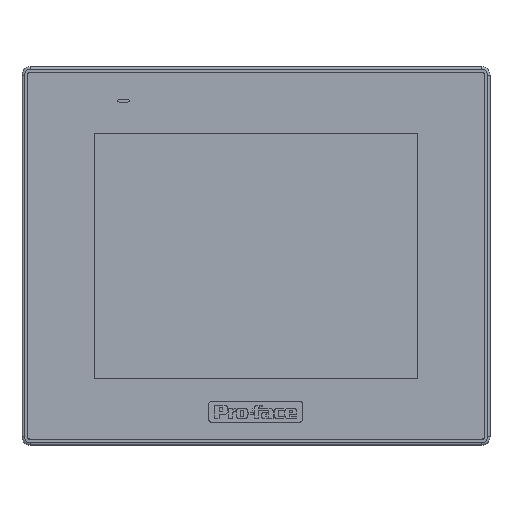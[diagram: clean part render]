
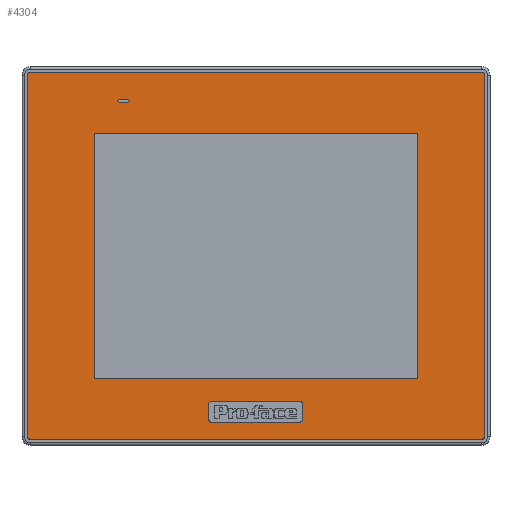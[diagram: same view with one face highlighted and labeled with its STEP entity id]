
A CAD part, top view. The second image highlights one B-rep face of the part: STEP entity #4304.
In plain terms, the highlighted planar face has unit normal (0, 0, 1) as drawn and (0, 0, -1) by its records, which use the part's own axes.
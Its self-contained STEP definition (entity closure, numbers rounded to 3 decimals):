
#1939=CARTESIAN_POINT('',(-81.75,65.5,-4.9));
#1940=DIRECTION('',(0.,0.,1.));
#1941=DIRECTION('',(0.,1.,0.));
#1942=AXIS2_PLACEMENT_3D('',#1939,#1940,#1941);
#1944=CARTESIAN_POINT('',(-81.75,-65.5,-4.9));
#1945=DIRECTION('',(0.,0.,1.));
#1946=DIRECTION('',(-1.,0.,0.));
#1947=AXIS2_PLACEMENT_3D('',#1944,#1945,#1946);
#1949=CARTESIAN_POINT('',(81.75,-65.5,-4.9));
#1950=DIRECTION('',(0.,0.,1.));
#1951=DIRECTION('',(0.,-1.,0.));
#1952=AXIS2_PLACEMENT_3D('',#1949,#1950,#1951);
#1954=CARTESIAN_POINT('',(81.75,65.5,-4.9));
#1955=DIRECTION('',(0.,0.,1.));
#1956=DIRECTION('',(1.,0.,0.));
#1957=AXIS2_PLACEMENT_3D('',#1954,#1955,#1956);
#1959=DIRECTION('',(0.,-1.,0.));
#1960=VECTOR('',#1959,88.6);
#1961=CARTESIAN_POINT('',(58.65,44.3,-4.9));
#1962=LINE('',#1961,#1960);
#1963=DIRECTION('',(-1.,0.,0.));
#1964=VECTOR('',#1963,117.3);
#1965=CARTESIAN_POINT('',(58.65,-44.3,-4.9));
#1966=LINE('',#1965,#1964);
#1967=DIRECTION('',(0.,1.,0.));
#1968=VECTOR('',#1967,88.6);
#1969=CARTESIAN_POINT('',(-58.65,-44.3,-4.9));
#1970=LINE('',#1969,#1968);
#1971=DIRECTION('',(1.,0.,0.));
#1972=VECTOR('',#1971,117.3);
#1973=CARTESIAN_POINT('',(-58.65,44.3,-4.9));
#1974=LINE('',#1973,#1972);
#1975=CARTESIAN_POINT('',(16.15,-53.65,-4.9));
#1976=DIRECTION('',(0.,0.,-1.));
#1977=DIRECTION('',(0.,1.,0.));
#1978=AXIS2_PLACEMENT_3D('',#1975,#1976,#1977);
#1980=DIRECTION('',(0.,-1.,0.));
#1981=VECTOR('',#1980,5.5);
#1982=CARTESIAN_POINT('',(17.15,-53.65,-4.9));
#1983=LINE('',#1982,#1981);
#1984=CARTESIAN_POINT('',(16.15,-59.15,-4.9));
#1985=DIRECTION('',(0.,0.,-1.));
#1986=DIRECTION('',(1.,0.,0.));
#1987=AXIS2_PLACEMENT_3D('',#1984,#1985,#1986);
#1989=DIRECTION('',(-1.,0.,0.));
#1990=VECTOR('',#1989,32.);
#1991=CARTESIAN_POINT('',(16.15,-60.15,-4.9));
#1992=LINE('',#1991,#1990);
#1993=CARTESIAN_POINT('',(-15.85,-59.15,-4.9));
#1994=DIRECTION('',(0.,0.,-1.));
#1995=DIRECTION('',(0.,-1.,0.));
#1996=AXIS2_PLACEMENT_3D('',#1993,#1994,#1995);
#1998=DIRECTION('',(0.,1.,0.));
#1999=VECTOR('',#1998,5.5);
#2000=CARTESIAN_POINT('',(-16.85,-59.15,-4.9));
#2001=LINE('',#2000,#1999);
#2002=CARTESIAN_POINT('',(-15.85,-53.65,-4.9));
#2003=DIRECTION('',(0.,0.,-1.));
#2004=DIRECTION('',(-1.,0.,0.));
#2005=AXIS2_PLACEMENT_3D('',#2002,#2003,#2004);
#2007=DIRECTION('',(1.,0.,0.));
#2008=VECTOR('',#2007,32.);
#2009=CARTESIAN_POINT('',(-15.85,-52.65,-4.9));
#2010=LINE('',#2009,#2008);
#2011=DIRECTION('',(-1.,0.,0.));
#2012=VECTOR('',#2011,3.);
#2013=CARTESIAN_POINT('',(49.5,55.75,-4.9));
#2014=LINE('',#2013,#2012);
#2015=DIRECTION('',(1.,0.,0.));
#2016=VECTOR('',#2015,3.);
#2017=CARTESIAN_POINT('',(46.5,56.85,-4.9));
#2018=LINE('',#2017,#2016);
#2019=DIRECTION('',(1.,0.,0.));
#2020=VECTOR('',#2019,163.5);
#2021=CARTESIAN_POINT('',(-81.75,66.4,-4.9));
#2022=LINE('',#2021,#2020);
#2031=DIRECTION('',(0.,-1.,0.));
#2032=VECTOR('',#2031,131.);
#2033=CARTESIAN_POINT('',(82.65,65.5,-4.9));
#2034=LINE('',#2033,#2032);
#2043=DIRECTION('',(-1.,0.,0.));
#2044=VECTOR('',#2043,163.5);
#2045=CARTESIAN_POINT('',(81.75,-66.4,-4.9));
#2046=LINE('',#2045,#2044);
#2055=DIRECTION('',(0.,1.,0.));
#2056=VECTOR('',#2055,131.);
#2057=CARTESIAN_POINT('',(-82.65,-65.5,-4.9));
#2058=LINE('',#2057,#2056);
#3654=CARTESIAN_POINT('',(49.5,56.3,-4.9));
#3655=DIRECTION('',(0.,0.,1.));
#3656=DIRECTION('',(0.,-1.,0.));
#3657=AXIS2_PLACEMENT_3D('',#3654,#3655,#3656);
#3680=CARTESIAN_POINT('',(46.5,56.3,-4.9));
#3681=DIRECTION('',(0.,0.,1.));
#3682=DIRECTION('',(0.,1.,0.));
#3683=AXIS2_PLACEMENT_3D('',#3680,#3681,#3682);
#3689=CARTESIAN_POINT('',(-81.75,66.4,-4.9));
#3690=CARTESIAN_POINT('',(81.75,66.4,-4.9));
#3691=VERTEX_POINT('',#3689);
#3692=VERTEX_POINT('',#3690);
#3693=CARTESIAN_POINT('',(-82.65,65.5,-4.9));
#3694=VERTEX_POINT('',#3693);
#3695=CARTESIAN_POINT('',(-82.65,-65.5,-4.9));
#3696=VERTEX_POINT('',#3695);
#3697=CARTESIAN_POINT('',(-81.75,-66.4,-4.9));
#3698=VERTEX_POINT('',#3697);
#3699=CARTESIAN_POINT('',(81.75,-66.4,-4.9));
#3700=VERTEX_POINT('',#3699);
#3701=CARTESIAN_POINT('',(82.65,-65.5,-4.9));
#3702=VERTEX_POINT('',#3701);
#3703=CARTESIAN_POINT('',(82.65,65.5,-4.9));
#3704=VERTEX_POINT('',#3703);
#3705=CARTESIAN_POINT('',(58.65,44.3,-4.9));
#3706=CARTESIAN_POINT('',(58.65,-44.3,-4.9));
#3707=VERTEX_POINT('',#3705);
#3708=VERTEX_POINT('',#3706);
#3709=CARTESIAN_POINT('',(-58.65,-44.3,-4.9));
#3710=VERTEX_POINT('',#3709);
#3711=CARTESIAN_POINT('',(-58.65,44.3,-4.9));
#3712=VERTEX_POINT('',#3711);
#3713=CARTESIAN_POINT('',(16.15,-52.65,-4.9));
#3714=CARTESIAN_POINT('',(17.15,-53.65,-4.9));
#3715=VERTEX_POINT('',#3713);
#3716=VERTEX_POINT('',#3714);
#3717=CARTESIAN_POINT('',(17.15,-59.15,-4.9));
#3718=VERTEX_POINT('',#3717);
#3719=CARTESIAN_POINT('',(16.15,-60.15,-4.9));
#3720=VERTEX_POINT('',#3719);
#3721=CARTESIAN_POINT('',(-15.85,-60.15,-4.9));
#3722=VERTEX_POINT('',#3721);
#3723=CARTESIAN_POINT('',(-16.85,-59.15,-4.9));
#3724=VERTEX_POINT('',#3723);
#3725=CARTESIAN_POINT('',(-16.85,-53.65,-4.9));
#3726=VERTEX_POINT('',#3725);
#3727=CARTESIAN_POINT('',(-15.85,-52.65,-4.9));
#3728=VERTEX_POINT('',#3727);
#4235=CARTESIAN_POINT('',(49.5,55.75,-4.9));
#4236=CARTESIAN_POINT('',(46.5,55.75,-4.9));
#4237=VERTEX_POINT('',#4235);
#4238=VERTEX_POINT('',#4236);
#4239=CARTESIAN_POINT('',(46.5,56.85,-4.9));
#4240=CARTESIAN_POINT('',(49.5,56.85,-4.9));
#4241=VERTEX_POINT('',#4239);
#4242=VERTEX_POINT('',#4240);
#4243=CARTESIAN_POINT('',(0.,0.,-4.9));
#4244=DIRECTION('',(0.,0.,-1.));
#4245=DIRECTION('',(-1.,0.,0.));
#4246=AXIS2_PLACEMENT_3D('',#4243,#4244,#4245);
#4247=PLANE('',#4246);
#4249=ORIENTED_EDGE('',*,*,#4248,.F.);
#4251=ORIENTED_EDGE('',*,*,#4250,.T.);
#4253=ORIENTED_EDGE('',*,*,#4252,.F.);
#4255=ORIENTED_EDGE('',*,*,#4254,.T.);
#4257=ORIENTED_EDGE('',*,*,#4256,.F.);
#4259=ORIENTED_EDGE('',*,*,#4258,.T.);
#4261=ORIENTED_EDGE('',*,*,#4260,.F.);
#4263=ORIENTED_EDGE('',*,*,#4262,.T.);
#4264=EDGE_LOOP('',(#4249,#4251,#4253,#4255,#4257,#4259,#4261,#4263));
#4265=FACE_OUTER_BOUND('',#4264,.F.);
#4267=ORIENTED_EDGE('',*,*,#4266,.T.);
#4269=ORIENTED_EDGE('',*,*,#4268,.T.);
#4271=ORIENTED_EDGE('',*,*,#4270,.T.);
#4273=ORIENTED_EDGE('',*,*,#4272,.T.);
#4274=EDGE_LOOP('',(#4267,#4269,#4271,#4273));
#4275=FACE_BOUND('',#4274,.F.);
#4277=ORIENTED_EDGE('',*,*,#4276,.T.);
#4279=ORIENTED_EDGE('',*,*,#4278,.T.);
#4281=ORIENTED_EDGE('',*,*,#4280,.T.);
#4283=ORIENTED_EDGE('',*,*,#4282,.T.);
#4285=ORIENTED_EDGE('',*,*,#4284,.T.);
#4287=ORIENTED_EDGE('',*,*,#4286,.T.);
#4289=ORIENTED_EDGE('',*,*,#4288,.T.);
#4291=ORIENTED_EDGE('',*,*,#4290,.T.);
#4292=EDGE_LOOP('',(#4277,#4279,#4281,#4283,#4285,#4287,#4289,#4291));
#4293=FACE_BOUND('',#4292,.F.);
#4295=ORIENTED_EDGE('',*,*,#4294,.T.);
#4297=ORIENTED_EDGE('',*,*,#4296,.F.);
#4299=ORIENTED_EDGE('',*,*,#4298,.T.);
#4301=ORIENTED_EDGE('',*,*,#4300,.F.);
#4302=EDGE_LOOP('',(#4295,#4297,#4299,#4301));
#4303=FACE_BOUND('',#4302,.F.);
#4304=ADVANCED_FACE('',(#4265,#4275,#4293,#4303),#4247,.T.);
#1943=CIRCLE('',#1942,0.9);
#1948=CIRCLE('',#1947,0.9);
#1953=CIRCLE('',#1952,0.9);
#1958=CIRCLE('',#1957,0.9);
#1979=CIRCLE('',#1978,1.);
#1988=CIRCLE('',#1987,1.);
#1997=CIRCLE('',#1996,1.);
#2006=CIRCLE('',#2005,1.);
#3658=CIRCLE('',#3657,0.55);
#3684=CIRCLE('',#3683,0.55);
#4248=EDGE_CURVE('',#3691,#3692,#2022,.T.);
#4250=EDGE_CURVE('',#3691,#3694,#1943,.T.);
#4252=EDGE_CURVE('',#3696,#3694,#2058,.T.);
#4254=EDGE_CURVE('',#3696,#3698,#1948,.T.);
#4256=EDGE_CURVE('',#3700,#3698,#2046,.T.);
#4258=EDGE_CURVE('',#3700,#3702,#1953,.T.);
#4260=EDGE_CURVE('',#3704,#3702,#2034,.T.);
#4262=EDGE_CURVE('',#3704,#3692,#1958,.T.);
#4266=EDGE_CURVE('',#3707,#3708,#1962,.T.);
#4268=EDGE_CURVE('',#3708,#3710,#1966,.T.);
#4270=EDGE_CURVE('',#3710,#3712,#1970,.T.);
#4272=EDGE_CURVE('',#3712,#3707,#1974,.T.);
#4276=EDGE_CURVE('',#3715,#3716,#1979,.T.);
#4278=EDGE_CURVE('',#3716,#3718,#1983,.T.);
#4280=EDGE_CURVE('',#3718,#3720,#1988,.T.);
#4282=EDGE_CURVE('',#3720,#3722,#1992,.T.);
#4284=EDGE_CURVE('',#3722,#3724,#1997,.T.);
#4286=EDGE_CURVE('',#3724,#3726,#2001,.T.);
#4288=EDGE_CURVE('',#3726,#3728,#2006,.T.);
#4290=EDGE_CURVE('',#3728,#3715,#2010,.T.);
#4294=EDGE_CURVE('',#4237,#4238,#2014,.T.);
#4296=EDGE_CURVE('',#4241,#4238,#3684,.T.);
#4298=EDGE_CURVE('',#4241,#4242,#2018,.T.);
#4300=EDGE_CURVE('',#4237,#4242,#3658,.T.);
